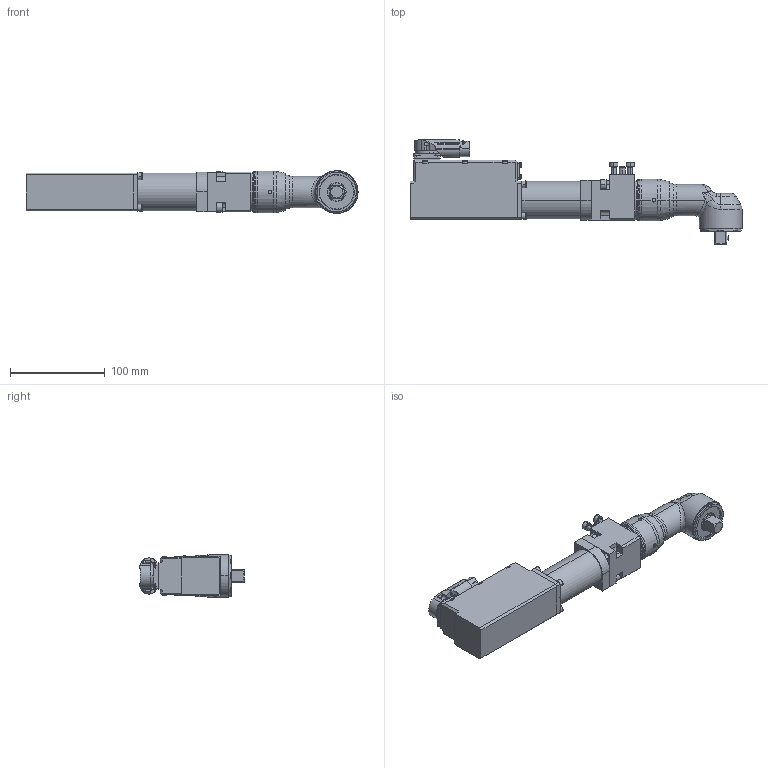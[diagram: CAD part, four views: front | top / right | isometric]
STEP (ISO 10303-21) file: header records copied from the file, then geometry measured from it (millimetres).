
FILE_DESCRIPTION (( 'STEP AP203' ), '1' );
FILE_NAME ('70121612_KSX1083WV12.STEP', '2020-01-15T11:20:29', ( 'admin' ), ( '' ), 'SwSTEP 2.0', 'SolidWorks 2017', '' );
FILE_SCHEMA (( 'CONFIG_CONTROL_DESIGN' ));
Length unit declared in the file: millimetre
Products named in the file (10): 70121612_KSX1083WV12; 70111180_2; 70111180; 70111180_Pos_vorne; 70111000_KSX1_Stecker_vorne; 70111012; 70111007; 70111036; 70111053; 70111000
Assembly tree (9 placements, depth 4):
  70121612_KSX1083WV12
    70111000_KSX1_Stecker_vorne
      70111000
      70111180_Pos_vorne
        70111180_2
        70111180
    70111012
    70111007
    70111036
    70111053
Bounding box: 349.9 x 109.7 x 45 mm (x, y, z)
Volume: 616430.2 mm3; surface area: 112323 mm2
Topology: 7 solids, 9 shells, 2063 faces, 5237 edges, 3291 vertices
Faces by surface type: cylinder 806, plane 661, cone 348, torus 143, bspline 55, sphere 50
Entity records: 68231 total; most frequent: CARTESIAN_POINT 18665, ORIENTED_EDGE 10330, DIRECTION 10006, EDGE_CURVE 5165, AXIS2_PLACEMENT_3D 4012, VERTEX_POINT 3291, EDGE_LOOP 2262, FACE_OUTER_BOUND 2063
